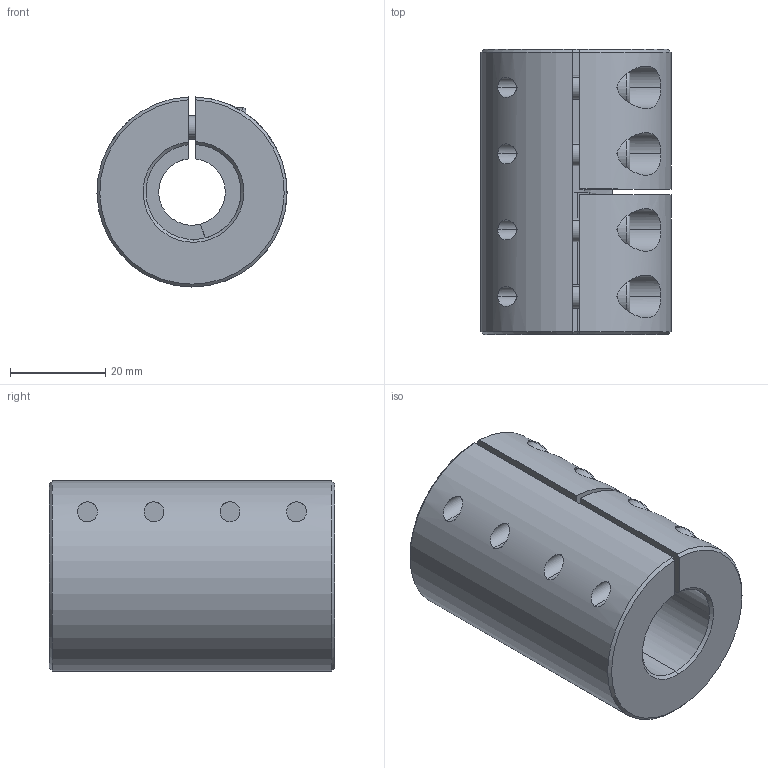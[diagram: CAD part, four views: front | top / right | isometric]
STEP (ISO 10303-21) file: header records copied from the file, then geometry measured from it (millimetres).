
FILE_DESCRIPTION (( 'STEP AP214' ), '1' );
FILE_NAME ('LL-B-D40L60-14-20½¨Ä£.STEP', '2022-07-22T01:02:02', ( '' ), ( '' ), 'SwSTEP 2.0', 'SolidWorks 2022', '' );
FILE_SCHEMA (( 'AUTOMOTIVE_DESIGN' ));
Length unit declared in the file: millimetre
Products named in the file (1): LL-B-D40L60-14-20膘耀
Bounding box: 40 x 60 x 39.99 mm (x, y, z)
Volume: 58304.3 mm3; surface area: 17379.5 mm2
Topology: 1 solids, 1 shells, 176 faces, 444 edges, 278 vertices
Faces by surface type: plane 84, cylinder 70, cone 14, torus 8
Entity records: 5801 total; most frequent: CARTESIAN_POINT 1475, DIRECTION 941, ORIENTED_EDGE 872, EDGE_CURVE 436, AXIS2_PLACEMENT_3D 368, VERTEX_POINT 278, EDGE_LOOP 208, VECTOR 205
